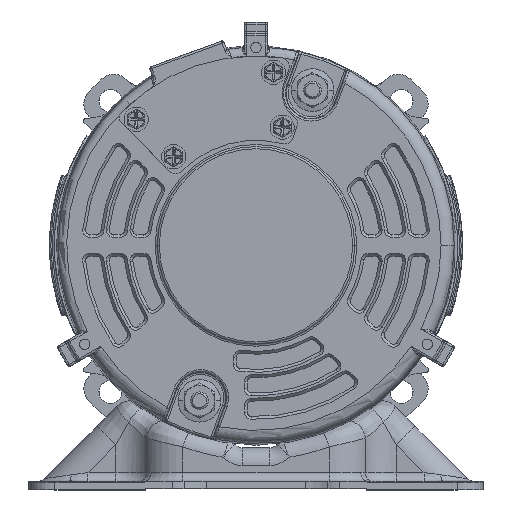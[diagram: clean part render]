
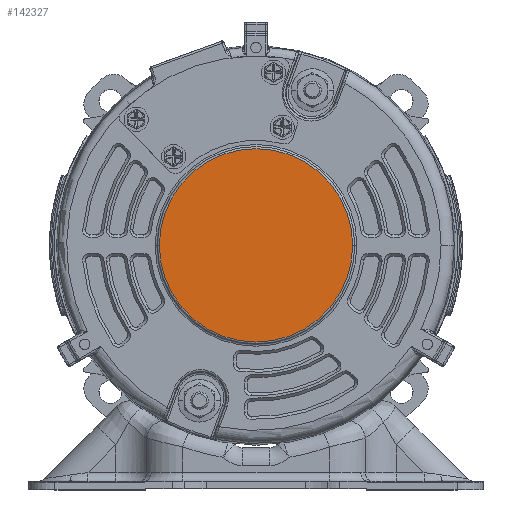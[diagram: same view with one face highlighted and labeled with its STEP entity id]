
A CAD part, top view. The second image highlights one B-rep face of the part: STEP entity #142327.
In plain terms, the highlighted planar face has unit normal (0, 0, 1).
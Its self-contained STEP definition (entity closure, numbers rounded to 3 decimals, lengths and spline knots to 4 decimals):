
#1784 = DIRECTION ( 'NONE',  ( 1., 0., 0. ) ) ;
#5789 = AXIS2_PLACEMENT_3D ( 'NONE', #112527, #68349, #1784 ) ;
#6933 = ORIENTED_EDGE ( 'NONE', *, *, #73387, .T. ) ;
#13827 = ORIENTED_EDGE ( 'NONE', *, *, #57967, .T. ) ;
#18676 = CARTESIAN_POINT ( 'NONE',  ( -1.38, 0., -0.9973 ) ) ;
#23003 = DIRECTION ( 'NONE',  ( 0., 0., 1. ) ) ;
#28893 = VERTEX_POINT ( 'NONE', #122150 ) ;
#38571 = CARTESIAN_POINT ( 'NONE',  ( 0., 0., -0.9973 ) ) ;
#49805 = DIRECTION ( 'NONE',  ( 1., 0., 0. ) ) ;
#57157 = PLANE ( 'NONE',  #5789 ) ;
#57967 = EDGE_CURVE ( 'NONE', #79437, #28893, #76115, .T. ) ;
#61889 = FACE_OUTER_BOUND ( 'NONE', #80285, .T. ) ;
#68349 = DIRECTION ( 'NONE',  ( 0., 0., 1. ) ) ;
#73387 = EDGE_CURVE ( 'NONE', #28893, #79437, #103336, .T. ) ;
#76115 = CIRCLE ( 'NONE', #80559, 1.38 ) ;
#79437 = VERTEX_POINT ( 'NONE', #18676 ) ;
#80285 = EDGE_LOOP ( 'NONE', ( #6933, #13827 ) ) ;
#80559 = AXIS2_PLACEMENT_3D ( 'NONE', #89636, #23003, #100811 ) ;
#89636 = CARTESIAN_POINT ( 'NONE',  ( 0., 0., -0.9973 ) ) ;
#100811 = DIRECTION ( 'NONE',  ( 1., 0., 0. ) ) ;
#103336 = CIRCLE ( 'NONE', #129698, 1.38 ) ;
#112527 = CARTESIAN_POINT ( 'NONE',  ( 0., 0., -0.9973 ) ) ;
#116343 = DIRECTION ( 'NONE',  ( 0., 0., 1. ) ) ;
#122150 = CARTESIAN_POINT ( 'NONE',  ( 1.38, 0., -0.9973 ) ) ;
#129698 = AXIS2_PLACEMENT_3D ( 'NONE', #38571, #116343, #49805 ) ;
#142327 = ADVANCED_FACE ( 'NONE', ( #61889 ), #57157, .T. ) ;
